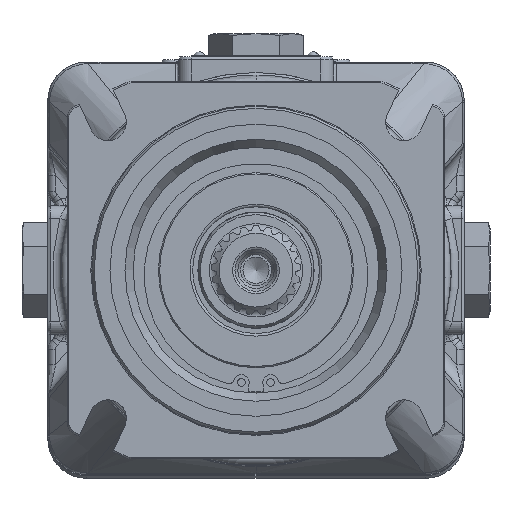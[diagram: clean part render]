
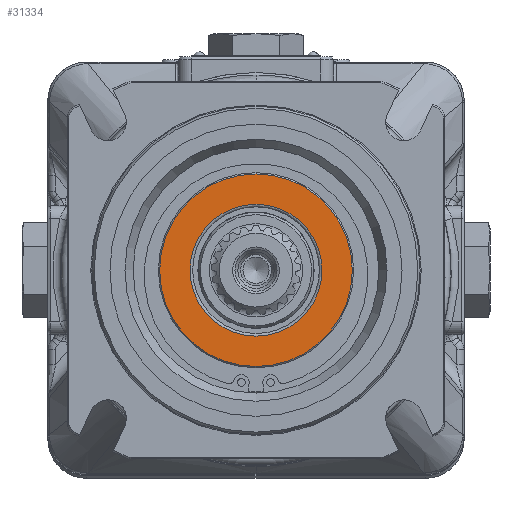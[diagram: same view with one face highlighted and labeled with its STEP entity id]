
A CAD part, front view. The second image highlights one B-rep face of the part: STEP entity #31334.
In plain terms, the highlighted planar face has unit normal (0, -1, 0).
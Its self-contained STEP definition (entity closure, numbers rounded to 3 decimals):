
#6597=PLANE('',#33642);
#6958=FACE_BOUND('',#10054,.T.);
#8050=FACE_OUTER_BOUND('',#10053,.T.);
#10053=EDGE_LOOP('',(#24305));
#10054=EDGE_LOOP('',(#24306));
#11480=CIRCLE('',#33641,37.25);
#11481=CIRCLE('',#33643,25.5);
#13911=VERTEX_POINT('',#52095);
#13912=VERTEX_POINT('',#52098);
#17520=EDGE_CURVE('',#13911,#13911,#11480,.T.);
#17521=EDGE_CURVE('',#13912,#13912,#11481,.T.);
#24305=ORIENTED_EDGE('',*,*,#17520,.F.);
#24306=ORIENTED_EDGE('',*,*,#17521,.F.);
#31334=ADVANCED_FACE('',(#8050,#6958),#6597,.T.);
#33641=AXIS2_PLACEMENT_3D('',#52096,#39696,#39697);
#33642=AXIS2_PLACEMENT_3D('',#52097,#39698,#39699);
#33643=AXIS2_PLACEMENT_3D('',#52099,#39700,#39701);
#39696=DIRECTION('center_axis',(0.,1.,0.));
#39697=DIRECTION('ref_axis',(0.,0.,
-1.));
#39698=DIRECTION('center_axis',(0.,-1.,0.));
#39699=DIRECTION('ref_axis',(0.,0.,-1.));
#39700=DIRECTION('center_axis',(0.,-1.,0.));
#39701=DIRECTION('ref_axis',(0.,0.,
-1.));
#52095=CARTESIAN_POINT('',(0.,-154.9,37.25));
#52096=CARTESIAN_POINT('Origin',(0.,-154.9,0.));
#52097=CARTESIAN_POINT('Origin',(0.,-154.9,31.375));
#52098=CARTESIAN_POINT('',(0.,-154.9,25.5));
#52099=CARTESIAN_POINT('Origin',(0.,-154.9,0.));
